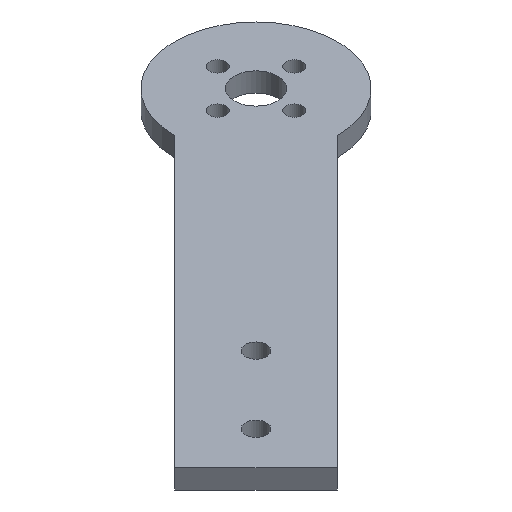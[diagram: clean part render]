
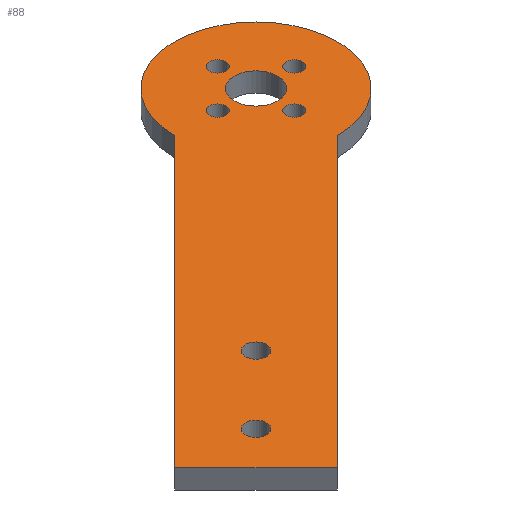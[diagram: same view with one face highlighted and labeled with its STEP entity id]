
A CAD part, isometric view. The second image highlights one B-rep face of the part: STEP entity #88.
In plain terms, the highlighted planar face has unit normal (0, 0, 1).
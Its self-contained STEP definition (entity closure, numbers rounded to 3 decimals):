
#24 = VERTEX_POINT('',#25);
#25 = CARTESIAN_POINT('',(28.284,11.314,7.));
#40 = VERTEX_POINT('',#41);
#41 = CARTESIAN_POINT('',(11.314,28.284,7.));
#47 = EDGE_CURVE('',#24,#40,#48,.T.);
#48 = LINE('',#49,#50);
#49 = CARTESIAN_POINT('',(28.284,11.314,7.));
#50 = VECTOR('',#51,1.);
#51 = DIRECTION('',(-0.707,0.707,0.));
#70 = EDGE_CURVE('',#24,#71,#73,.T.);
#71 = VERTEX_POINT('',#72);
#72 = CARTESIAN_POINT('',(88.359,71.388,7.));
#73 = LINE('',#74,#75);
#74 = CARTESIAN_POINT('',(28.284,11.314,7.));
#75 = VECTOR('',#76,1.);
#76 = DIRECTION('',(0.707,0.707,0.));
#88 = ADVANCED_FACE('',(#89,#117,#128,#139,#150,#161,#172,#183),#194,.T.
  );
#89 = FACE_BOUND('',#90,.T.);
#90 = EDGE_LOOP('',(#91,#99,#100,#101,#110));
#91 = ORIENTED_EDGE('',*,*,#92,.F.);
#92 = EDGE_CURVE('',#40,#93,#95,.T.);
#93 = VERTEX_POINT('',#94);
#94 = CARTESIAN_POINT('',(71.388,88.359,7.));
#95 = LINE('',#96,#97);
#96 = CARTESIAN_POINT('',(11.314,28.284,7.));
#97 = VECTOR('',#98,1.);
#98 = DIRECTION('',(0.707,0.707,0.));
#99 = ORIENTED_EDGE('',*,*,#47,.F.);
#100 = ORIENTED_EDGE('',*,*,#70,.T.);
#101 = ORIENTED_EDGE('',*,*,#102,.T.);
#102 = EDGE_CURVE('',#71,#103,#105,.T.);
#103 = VERTEX_POINT('',#104);
#104 = CARTESIAN_POINT('',(100.409,100.409,7.));
#105 = CIRCLE('',#106,17.);
#106 = AXIS2_PLACEMENT_3D('',#107,#108,#109);
#107 = CARTESIAN_POINT('',(88.388,88.388,7.));
#108 = DIRECTION('',(0.,-0.,1.));
#109 = DIRECTION('',(0.707,0.707,0.));
#110 = ORIENTED_EDGE('',*,*,#111,.T.);
#111 = EDGE_CURVE('',#103,#93,#112,.T.);
#112 = CIRCLE('',#113,17.);
#113 = AXIS2_PLACEMENT_3D('',#114,#115,#116);
#114 = CARTESIAN_POINT('',(88.388,88.388,7.));
#115 = DIRECTION('',(0.,-0.,1.));
#116 = DIRECTION('',(0.707,0.707,0.));
#117 = FACE_BOUND('',#118,.T.);
#118 = EDGE_LOOP('',(#119));
#119 = ORIENTED_EDGE('',*,*,#120,.F.);
#120 = EDGE_CURVE('',#121,#121,#123,.T.);
#121 = VERTEX_POINT('',#122);
#122 = CARTESIAN_POINT('',(28.426,28.426,7.));
#123 = CIRCLE('',#124,2.2);
#124 = AXIS2_PLACEMENT_3D('',#125,#126,#127);
#125 = CARTESIAN_POINT('',(26.87,26.87,7.));
#126 = DIRECTION('',(0.,-0.,1.));
#127 = DIRECTION('',(0.707,0.707,0.));
#128 = FACE_BOUND('',#129,.T.);
#129 = EDGE_LOOP('',(#130));
#130 = ORIENTED_EDGE('',*,*,#131,.F.);
#131 = EDGE_CURVE('',#132,#132,#134,.T.);
#132 = VERTEX_POINT('',#133);
#133 = CARTESIAN_POINT('',(42.568,42.568,7.));
#134 = CIRCLE('',#135,2.2);
#135 = AXIS2_PLACEMENT_3D('',#136,#137,#138);
#136 = CARTESIAN_POINT('',(41.012,41.012,7.));
#137 = DIRECTION('',(0.,-0.,1.));
#138 = DIRECTION('',(0.707,0.707,0.));
#139 = FACE_BOUND('',#140,.T.);
#140 = EDGE_LOOP('',(#141));
#141 = ORIENTED_EDGE('',*,*,#142,.F.);
#142 = EDGE_CURVE('',#143,#143,#145,.T.);
#143 = VERTEX_POINT('',#144);
#144 = CARTESIAN_POINT('',(89.59,81.59,7.));
#145 = CIRCLE('',#146,1.7);
#146 = AXIS2_PLACEMENT_3D('',#147,#148,#149);
#147 = CARTESIAN_POINT('',(88.388,80.388,7.));
#148 = DIRECTION('',(0.,-0.,1.));
#149 = DIRECTION('',(0.707,0.707,0.));
#150 = FACE_BOUND('',#151,.T.);
#151 = EDGE_LOOP('',(#152));
#152 = ORIENTED_EDGE('',*,*,#153,.F.);
#153 = EDGE_CURVE('',#154,#154,#156,.T.);
#154 = VERTEX_POINT('',#155);
#155 = CARTESIAN_POINT('',(97.59,89.59,7.));
#156 = CIRCLE('',#157,1.7);
#157 = AXIS2_PLACEMENT_3D('',#158,#159,#160);
#158 = CARTESIAN_POINT('',(96.388,88.388,7.));
#159 = DIRECTION('',(0.,-0.,1.));
#160 = DIRECTION('',(0.707,0.707,0.));
#161 = FACE_BOUND('',#162,.T.);
#162 = EDGE_LOOP('',(#163));
#163 = ORIENTED_EDGE('',*,*,#164,.F.);
#164 = EDGE_CURVE('',#165,#165,#167,.T.);
#165 = VERTEX_POINT('',#166);
#166 = CARTESIAN_POINT('',(91.57,91.57,7.));
#167 = CIRCLE('',#168,4.5);
#168 = AXIS2_PLACEMENT_3D('',#169,#170,#171);
#169 = CARTESIAN_POINT('',(88.388,88.388,7.));
#170 = DIRECTION('',(0.,-0.,1.));
#171 = DIRECTION('',(0.707,0.707,0.));
#172 = FACE_BOUND('',#173,.T.);
#173 = EDGE_LOOP('',(#174));
#174 = ORIENTED_EDGE('',*,*,#175,.F.);
#175 = EDGE_CURVE('',#176,#176,#178,.T.);
#176 = VERTEX_POINT('',#177);
#177 = CARTESIAN_POINT('',(81.59,89.59,7.));
#178 = CIRCLE('',#179,1.7);
#179 = AXIS2_PLACEMENT_3D('',#180,#181,#182);
#180 = CARTESIAN_POINT('',(80.388,88.388,7.));
#181 = DIRECTION('',(0.,-0.,1.));
#182 = DIRECTION('',(0.707,0.707,0.));
#183 = FACE_BOUND('',#184,.T.);
#184 = EDGE_LOOP('',(#185));
#185 = ORIENTED_EDGE('',*,*,#186,.F.);
#186 = EDGE_CURVE('',#187,#187,#189,.T.);
#187 = VERTEX_POINT('',#188);
#188 = CARTESIAN_POINT('',(89.59,97.59,7.));
#189 = CIRCLE('',#190,1.7);
#190 = AXIS2_PLACEMENT_3D('',#191,#192,#193);
#191 = CARTESIAN_POINT('',(88.388,96.388,7.));
#192 = DIRECTION('',(0.,-0.,1.));
#193 = DIRECTION('',(0.707,0.707,0.));
#194 = PLANE('',#195);
#195 = AXIS2_PLACEMENT_3D('',#196,#197,#198);
#196 = CARTESIAN_POINT('',(59.237,59.237,7.));
#197 = DIRECTION('',(0.,0.,1.));
#198 = DIRECTION('',(0.707,0.707,0.));
